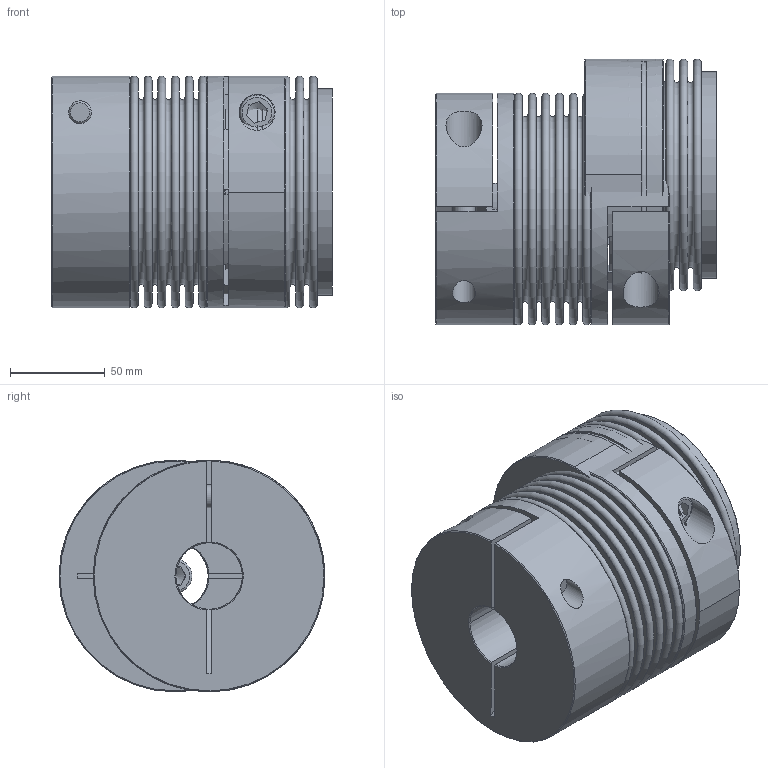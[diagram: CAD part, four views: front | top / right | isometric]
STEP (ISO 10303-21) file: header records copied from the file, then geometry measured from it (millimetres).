
FILE_DESCRIPTION( ( 'Unknown' ), '1' );
FILE_NAME( 'C:/Dokumente und Einstellungen/Sven/Desktop/cad - homepage/KB4/KB4-500-123.stp', 'Unknown', ( 'Unknown' ), ( 'Unknown' ), 'XStep 1.0', 'Unknown', ' ' );
FILE_SCHEMA( ( 'automotive_design' ) );
Length unit declared in the file: millimetre
Products named in the file (4): Assem1; KN500_Standard_0; BL500_Standard; Socket Head Cap Screw_DIN_DIN 912 M12 x 55 --- 55N_0
Bounding box: 147.9 x 140 x 122 mm (x, y, z)
Volume: 1337416.3 mm3; surface area: 427886.1 mm2
Topology: 8 solids, 8 shells, 233 faces, 474 edges, 308 vertices
Faces by surface type: plane 124, torus 50, cylinder 41, cone 18
Full cylindrical faces by diameter (mm): 12 x6, 12.5 x3, 18 x3, 19 x3, 35 x3, 107.7 x4, 108.9 x4, 122 x3
Entity records: 2582 total; most frequent: CARTESIAN_POINT 545, DIRECTION 409, ORIENTED_EDGE 268, AXIS2_PLACEMENT_3D 185, EDGE_LOOP 164, EDGE_CURVE 134, FACE_OUTER_BOUND 128, VERTEX_POINT 111
